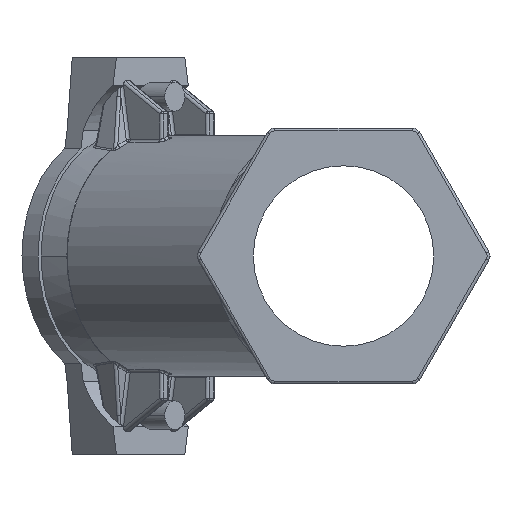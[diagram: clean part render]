
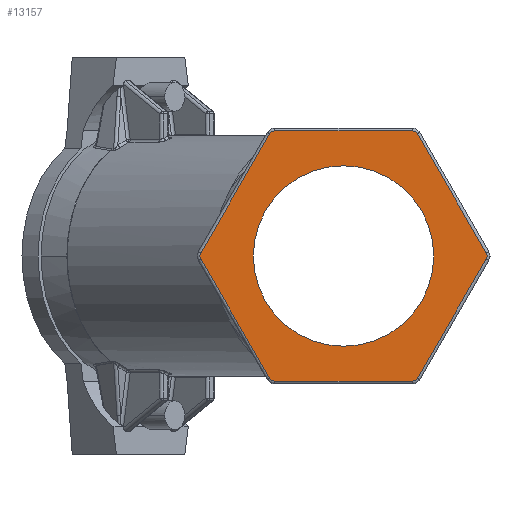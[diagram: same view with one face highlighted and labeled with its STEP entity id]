
A CAD part, left-side view. The second image highlights one B-rep face of the part: STEP entity #13157.
In plain terms, the highlighted planar face has unit normal (-1, 0, 0).
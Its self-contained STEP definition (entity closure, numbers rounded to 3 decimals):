
#58 = DIRECTION ( 'NONE',  ( 0., -0.5, 0.866 ) ) ;
#59 = VECTOR ( 'NONE', #58, 1000. ) ;
#60 = CARTESIAN_POINT ( 'NONE',  ( -51.699, -44.472, -11.025 ) ) ;
#61 = LINE ( 'NONE', #60, #59 ) ;
#62 = CARTESIAN_POINT ( 'NONE',  ( -51.699, -25.988, -43.001 ) ) ;
#63 = DIRECTION ( 'NONE',  ( 0., 0., 1. ) ) ;
#64 = DIRECTION ( 'NONE',  ( -1., 0., 0. ) ) ;
#65 = CARTESIAN_POINT ( 'NONE',  ( -51.699, -24.256, -42. ) ) ;
#66 = AXIS2_PLACEMENT_3D ( 'NONE', #65, #64, #63 ) ;
#67 = CIRCLE ( 'NONE', #66, 2. ) ;
#68 = CARTESIAN_POINT ( 'NONE',  ( -51.699, -24.256, -44. ) ) ;
#69 = DIRECTION ( 'NONE',  ( 0., -1., 0. ) ) ;
#70 = VECTOR ( 'NONE', #69, 1000. ) ;
#71 = CARTESIAN_POINT ( 'NONE',  ( -51.699, -25.4, -44. ) ) ;
#72 = LINE ( 'NONE', #71, #70 ) ;
#78 = CIRCLE ( 'NONE', #140, 2. ) ;
#79 = CARTESIAN_POINT ( 'NONE',  ( -51.699, 24.256, -44. ) ) ;
#80 = DIRECTION ( 'NONE',  ( 0., 0., 1. ) ) ;
#81 = DIRECTION ( 'NONE',  ( -1., 0., 0. ) ) ;
#82 = CARTESIAN_POINT ( 'NONE',  ( -51.699, 24.256, -42. ) ) ;
#83 = AXIS2_PLACEMENT_3D ( 'NONE', #82, #81, #80 ) ;
#84 = CIRCLE ( 'NONE', #83, 2. ) ;
#85 = CARTESIAN_POINT ( 'NONE',  ( -51.699, 25.988, -43.001 ) ) ;
#86 = DIRECTION ( 'NONE',  ( 0., -0.5, -0.866 ) ) ;
#87 = VECTOR ( 'NONE', #86, 1000. ) ;
#88 = CARTESIAN_POINT ( 'NONE',  ( -51.699, 31.748, -33.035 ) ) ;
#89 = LINE ( 'NONE', #88, #87 ) ;
#90 = CARTESIAN_POINT ( 'NONE',  ( -51.699, 50.266, -1.001 ) ) ;
#91 = DIRECTION ( 'NONE',  ( 0., 0., 1. ) ) ;
#92 = DIRECTION ( 'NONE',  ( -1., 0., 0. ) ) ;
#93 = CARTESIAN_POINT ( 'NONE',  ( -51.699, 48.535, 0. ) ) ;
#94 = AXIS2_PLACEMENT_3D ( 'NONE', #93, #92, #91 ) ;
#95 = CIRCLE ( 'NONE', #94, 2. ) ;
#96 = CARTESIAN_POINT ( 'NONE',  ( -51.699, 50.266, 1.001 ) ) ;
#97 = DIRECTION ( 'NONE',  ( 0., -0.5, 0.866 ) ) ;
#98 = VECTOR ( 'NONE', #97, 1000. ) ;
#99 = CARTESIAN_POINT ( 'NONE',  ( -51.699, 31.748, 33.035 ) ) ;
#100 = LINE ( 'NONE', #99, #98 ) ;
#101 = CARTESIAN_POINT ( 'NONE',  ( -51.699, 25.988, 43.001 ) ) ;
#102 = DIRECTION ( 'NONE',  ( 0., 0., -1. ) ) ;
#103 = DIRECTION ( 'NONE',  ( 1., 0., 0. ) ) ;
#104 = CARTESIAN_POINT ( 'NONE',  ( -51.699, 24.256, 42. ) ) ;
#105 = AXIS2_PLACEMENT_3D ( 'NONE', #104, #103, #102 ) ;
#106 = CIRCLE ( 'NONE', #105, 2. ) ;
#124 = DIRECTION ( 'NONE',  ( 0., 0., -1. ) ) ;
#125 = DIRECTION ( 'NONE',  ( 1., 0., 0. ) ) ;
#126 = CARTESIAN_POINT ( 'NONE',  ( -51.699, -24.256, 42. ) ) ;
#127 = AXIS2_PLACEMENT_3D ( 'NONE', #126, #125, #124 ) ;
#128 = CIRCLE ( 'NONE', #127, 2. ) ;
#130 = CARTESIAN_POINT ( 'NONE',  ( -51.699, -25.988, 43.001 ) ) ;
#131 = DIRECTION ( 'NONE',  ( 0., -0.5, -0.866 ) ) ;
#132 = VECTOR ( 'NONE', #131, 1000. ) ;
#133 = CARTESIAN_POINT ( 'NONE',  ( -51.699, -44.472, 11.025 ) ) ;
#134 = LINE ( 'NONE', #133, #132 ) ;
#135 = CARTESIAN_POINT ( 'NONE',  ( -51.699, -50.266, 1.001 ) ) ;
#136 = CARTESIAN_POINT ( 'NONE',  ( -51.699, -50.266, -1.001 ) ) ;
#137 = DIRECTION ( 'NONE',  ( 0., 0., 1. ) ) ;
#138 = DIRECTION ( 'NONE',  ( -1., 0., 0. ) ) ;
#139 = CARTESIAN_POINT ( 'NONE',  ( -51.699, -48.535, 0. ) ) ;
#140 = AXIS2_PLACEMENT_3D ( 'NONE', #139, #138, #137 ) ;
#1754 = VERTEX_POINT ( 'NONE', #19085 ) ;
#10190 = DIRECTION ( 'NONE',  ( 0., 0., -1. ) ) ;
#10191 = DIRECTION ( 'NONE',  ( 1., 0., 0. ) ) ;
#10192 = CARTESIAN_POINT ( 'NONE',  ( -51.699, 0., 0. ) ) ;
#10193 = AXIS2_PLACEMENT_3D ( 'NONE', #10192, #10191, #10190 ) ;
#10194 = CIRCLE ( 'NONE', #10193, 31.75 ) ;
#10247 = CARTESIAN_POINT ( 'NONE',  ( -51.699, 0., -31.75 ) ) ;
#10249 = CARTESIAN_POINT ( 'NONE',  ( -51.699, 0., 31.75 ) ) ;
#12897 = ORIENTED_EDGE ( 'NONE', *, *, #12911, .T. ) ;
#12901 = EDGE_LOOP ( 'NONE', ( #12897, #12945 ) ) ;
#12911 = EDGE_CURVE ( 'NONE', #17130, #17127, #19827, .T. ) ;
#12945 = ORIENTED_EDGE ( 'NONE', *, *, #17110, .T. ) ;
#13157 = ADVANCED_FACE ( 'NONE', ( #19822, #19821 ), #19820, .T. ) ;
#13588 = ORIENTED_EDGE ( 'NONE', *, *, #13905, .F. ) ;
#13589 = VERTEX_POINT ( 'NONE', #20002 ) ;
#13591 = EDGE_CURVE ( 'NONE', #13589, #1754, #20000, .T. ) ;
#13592 = ORIENTED_EDGE ( 'NONE', *, *, #13591, .F. ) ;
#13891 = ORIENTED_EDGE ( 'NONE', *, *, #13892, .T. ) ;
#13892 = EDGE_CURVE ( 'NONE', #13918, #13893, #72, .T. ) ;
#13893 = VERTEX_POINT ( 'NONE', #68 ) ;
#13894 = ORIENTED_EDGE ( 'NONE', *, *, #13895, .T. ) ;
#13895 = EDGE_CURVE ( 'NONE', #13893, #13896, #67, .T. ) ;
#13896 = VERTEX_POINT ( 'NONE', #62 ) ;
#13897 = ORIENTED_EDGE ( 'NONE', *, *, #13898, .T. ) ;
#13898 = EDGE_CURVE ( 'NONE', #13896, #13922, #61, .T. ) ;
#13905 = EDGE_CURVE ( 'NONE', #13906, #13589, #106, .T. ) ;
#13906 = VERTEX_POINT ( 'NONE', #101 ) ;
#13907 = ORIENTED_EDGE ( 'NONE', *, *, #13908, .F. ) ;
#13908 = EDGE_CURVE ( 'NONE', #13909, #13906, #100, .T. ) ;
#13909 = VERTEX_POINT ( 'NONE', #96 ) ;
#13910 = ORIENTED_EDGE ( 'NONE', *, *, #13911, .T. ) ;
#13911 = EDGE_CURVE ( 'NONE', #13909, #13912, #95, .T. ) ;
#13912 = VERTEX_POINT ( 'NONE', #90 ) ;
#13913 = ORIENTED_EDGE ( 'NONE', *, *, #13914, .T. ) ;
#13914 = EDGE_CURVE ( 'NONE', #13912, #13915, #89, .T. ) ;
#13915 = VERTEX_POINT ( 'NONE', #85 ) ;
#13916 = ORIENTED_EDGE ( 'NONE', *, *, #13917, .T. ) ;
#13917 = EDGE_CURVE ( 'NONE', #13915, #13918, #84, .T. ) ;
#13918 = VERTEX_POINT ( 'NONE', #79 ) ;
#13919 = EDGE_LOOP ( 'NONE', ( #13920, #13924, #13927, #13592, #13588, #13907, #13910, #13913, #13916, #13891, #13894, #13897 ) ) ;
#13920 = ORIENTED_EDGE ( 'NONE', *, *, #13921, .T. ) ;
#13921 = EDGE_CURVE ( 'NONE', #13922, #13923, #78, .T. ) ;
#13922 = VERTEX_POINT ( 'NONE', #136 ) ;
#13923 = VERTEX_POINT ( 'NONE', #135 ) ;
#13924 = ORIENTED_EDGE ( 'NONE', *, *, #13925, .F. ) ;
#13925 = EDGE_CURVE ( 'NONE', #13926, #13923, #134, .T. ) ;
#13926 = VERTEX_POINT ( 'NONE', #130 ) ;
#13927 = ORIENTED_EDGE ( 'NONE', *, *, #13928, .F. ) ;
#13928 = EDGE_CURVE ( 'NONE', #1754, #13926, #128, .T. ) ;
#17110 = EDGE_CURVE ( 'NONE', #17127, #17130, #10194, .T. ) ;
#17127 = VERTEX_POINT ( 'NONE', #10249 ) ;
#17130 = VERTEX_POINT ( 'NONE', #10247 ) ;
#19085 = CARTESIAN_POINT ( 'NONE',  ( -51.699, -24.256, 44. ) ) ;
#19817 = DIRECTION ( 'NONE',  ( -1., 0., 0. ) ) ;
#19818 = CARTESIAN_POINT ( 'NONE',  ( -51.699, -25.4, 0. ) ) ;
#19819 = AXIS2_PLACEMENT_3D ( 'NONE', #19818, #19817, #19877 ) ;
#19820 = PLANE ( 'NONE',  #19819 ) ;
#19821 = FACE_OUTER_BOUND ( 'NONE', #13919, .T. ) ;
#19822 = FACE_BOUND ( 'NONE', #12901, .T. ) ;
#19823 = DIRECTION ( 'NONE',  ( 0., 0., -1. ) ) ;
#19824 = DIRECTION ( 'NONE',  ( 1., 0., 0. ) ) ;
#19825 = CARTESIAN_POINT ( 'NONE',  ( -51.699, 0., 0. ) ) ;
#19826 = AXIS2_PLACEMENT_3D ( 'NONE', #19825, #19824, #19823 ) ;
#19827 = CIRCLE ( 'NONE', #19826, 31.75 ) ;
#19877 = DIRECTION ( 'NONE',  ( 0., 0., 1. ) ) ;
#19993 = DIRECTION ( 'NONE',  ( 0., -1., 0. ) ) ;
#19994 = VECTOR ( 'NONE', #19993, 1000. ) ;
#19995 = CARTESIAN_POINT ( 'NONE',  ( -51.699, -25.4, 44. ) ) ;
#20000 = LINE ( 'NONE', #19995, #19994 ) ;
#20002 = CARTESIAN_POINT ( 'NONE',  ( -51.699, 24.256, 44. ) ) ;
